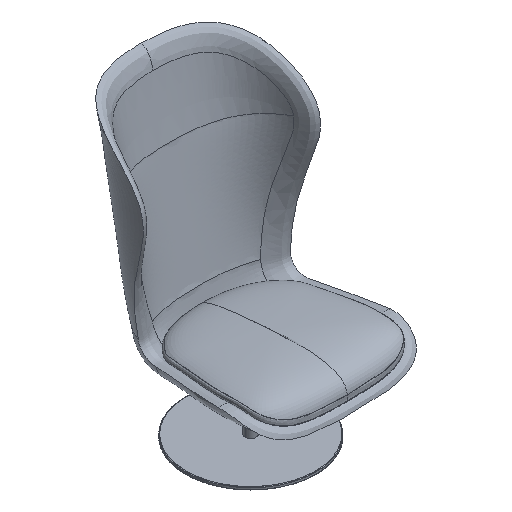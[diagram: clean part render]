
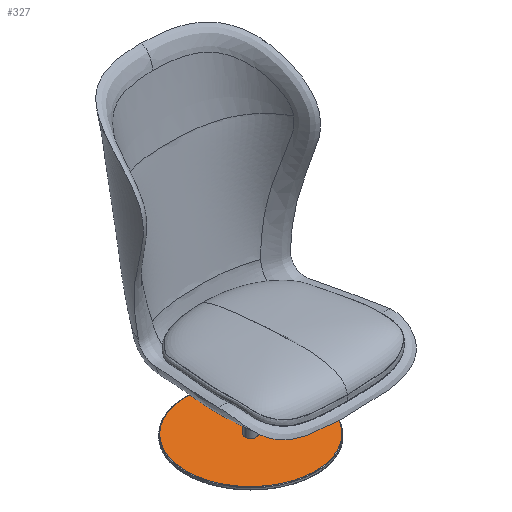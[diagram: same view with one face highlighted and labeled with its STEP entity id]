
A CAD part, isometric view. The second image highlights one B-rep face of the part: STEP entity #327.
In plain terms, the highlighted planar face has unit normal (0, 0, 1).
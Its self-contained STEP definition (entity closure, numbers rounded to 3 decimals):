
#24=FACE_BOUND('',#455,.T.);
#135=(
BOUNDED_CURVE()
B_SPLINE_CURVE(3,(#33781,#33782,#33783,#33784,#33785,#33786,#33787,#33788,
#33789,#33790,#33791,#33792,#33793,#33794,#33795,#33796,#33797,#33798,#33799,
#33800,#33801,#33802,#33803,#33804,#33805,#33806,#33807,#33808,#33809,#33810,
#33811,#33812,#33813,#33814,#33815,#33816,#33817,#33818,#33819,#33820,#33821,
#33822,#33823,#33824,#33825,#33826,#33827,#33828,#33829,#33830,#33831,#33832,
#33833,#33834,#33835,#33836,#33837,#33838,#33839,#33840,#33841,#33842,#33843,
#33844,#33845,#33846,#33847,#33848,#33849,#33850),.UNSPECIFIED.,.T.,.F.)
B_SPLINE_CURVE_WITH_KNOTS((4,1,1,1,1,1,1,1,1,1,1,1,1,1,1,1,1,1,1,1,1,1,
1,1,1,1,1,1,1,1,1,1,1,1,1,1,1,1,1,1,1,1,1,1,1,1,1,1,1,1,1,1,1,1,1,1,1,1,
1,1,1,1,1,1,1,1,1,4),(0.,34.953,69.907,110.566,
131.482,152.399,173.621,194.844,216.066,
237.289,279.121,289.286,299.451,309.616,
319.781,337.257,354.734,389.687,407.164,
424.641,442.117,459.594,479.924,500.254,
542.086,563.309,584.531,605.754,626.976,
647.892,668.809,678.973,689.138,709.468,
744.421,779.375,814.328,849.281,869.611,
889.941,931.774,952.996,974.218,995.441,
1016.663,1037.58,1058.496,1068.661,1078.826,
1099.155,1134.109,1169.062,1204.016,1238.969,
1259.299,1279.628,1321.461,1342.683,1363.906,
1385.128,1406.351,1448.183,1468.513,1488.843,
1506.319,1523.796,1541.273,1558.75),
 .UNSPECIFIED.)
CURVE()
GEOMETRIC_REPRESENTATION_ITEM()
RATIONAL_B_SPLINE_CURVE((1.,1.,1.,1.,1.,1.,1.,1.,
1.,1.,1.,1.,1.,1.,1.,1.,1.,1.,1.,1.,1.,
1.,1.,1.,1.,1.,1.,1.,1.,1.,1.,1.,1.,
1.,1.,1.,1.,1.,1.,1.,1.,1.,
1.,1.,1.,1.,1.,1.,1.,1.,1.,
1.,1.,1.,1.,1.,1.,1.,1.,1.,1.,1.,1.,1.,
1.,1.,1.,1.,1.,1.))
REPRESENTATION_ITEM('')
);
#136=(
BOUNDED_CURVE()
B_SPLINE_CURVE(2,(#33851,#33852,#33853,#33854,#33855,#33856,#33857,#33858,
#33859),.UNSPECIFIED.,.T.,.F.)
B_SPLINE_CURVE_WITH_KNOTS((3,2,2,2,3),(0.,42.7,85.4,128.1,170.8),
 .UNSPECIFIED.)
CURVE()
GEOMETRIC_REPRESENTATION_ITEM()
RATIONAL_B_SPLINE_CURVE((1.,0.707,1.,0.707,1.,0.707,
1.,0.707,1.))
REPRESENTATION_ITEM('')
);
#180=PLANE('',#1340);
#327=ADVANCED_FACE('',(#386,#24),#180,.T.);
#386=FACE_OUTER_BOUND('',#454,.T.);
#454=EDGE_LOOP('',(#653));
#455=EDGE_LOOP('',(#654));
#653=ORIENTED_EDGE('',*,*,#929,.T.);
#654=ORIENTED_EDGE('',*,*,#930,.T.);
#929=EDGE_CURVE('',#1251,#1251,#135,.T.);
#930=EDGE_CURVE('',#1252,#1252,#136,.T.);
#1251=VERTEX_POINT('',#33779);
#1252=VERTEX_POINT('',#33780);
#1340=AXIS2_PLACEMENT_3D('',#33778,#1357,$);
#1357=DIRECTION('',(0.,0.,1.));
#33778=CARTESIAN_POINT('',(-298.188,95.274,10.));
#33779=CARTESIAN_POINT('',(247.727,393.503,10.));
#33780=CARTESIAN_POINT('',(21.35,393.503,10.));
#33781=CARTESIAN_POINT('',(247.727,393.503,10.));
#33782=CARTESIAN_POINT('',(247.728,405.138,10.));
#33783=CARTESIAN_POINT('',(246.085,428.406,10.));
#33784=CARTESIAN_POINT('',(238.346,464.48,10.));
#33785=CARTESIAN_POINT('',(226.878,494.609,10.));
#33786=CARTESIAN_POINT('',(213.994,518.885,10.));
#33787=CARTESIAN_POINT('',(202.621,536.546,10.));
#33788=CARTESIAN_POINT('',(189.727,553.26,10.));
#33789=CARTESIAN_POINT('',(175.384,568.887,10.));
#33790=CARTESIAN_POINT('',(159.757,583.23,10.));
#33791=CARTESIAN_POINT('',(137.526,600.381,10.));
#33792=CARTESIAN_POINT('',(116.424,612.746,10.));
#33793=CARTESIAN_POINT('',(97.57,621.281,10.));
#33794=CARTESIAN_POINT('',(88.158,625.088,10.));
#33795=CARTESIAN_POINT('',(78.598,628.504,10.));
#33796=CARTESIAN_POINT('',(66.582,632.251,10.));
#33797=CARTESIAN_POINT('',(52.009,635.919,10.));
#33798=CARTESIAN_POINT('',(29.086,639.999,10.));
#33799=CARTESIAN_POINT('',(5.817,641.641,10.));
#33800=CARTESIAN_POINT('',(-17.452,640.82,10.));
#33801=CARTESIAN_POINT('',(-34.817,638.979,10.));
#33802=CARTESIAN_POINT('',(-52.009,635.919,10.));
#33803=CARTESIAN_POINT('',(-69.865,631.425,10.));
#33804=CARTESIAN_POINT('',(-88.232,625.282,10.));
#33805=CARTESIAN_POINT('',(-113.493,614.461,10.));
#33806=CARTESIAN_POINT('',(-137.526,600.382,10.));
#33807=CARTESIAN_POINT('',(-159.757,583.23,10.));
#33808=CARTESIAN_POINT('',(-175.384,568.887,10.));
#33809=CARTESIAN_POINT('',(-189.727,553.26,10.));
#33810=CARTESIAN_POINT('',(-202.621,536.546,10.));
#33811=CARTESIAN_POINT('',(-213.995,518.885,10.));
#33812=CARTESIAN_POINT('',(-222.114,503.583,10.));
#33813=CARTESIAN_POINT('',(-227.779,491.073,10.));
#33814=CARTESIAN_POINT('',(-232.853,478.524,10.));
#33815=CARTESIAN_POINT('',(-239.769,457.847,10.));
#33816=CARTESIAN_POINT('',(-246.086,428.407,10.));
#33817=CARTESIAN_POINT('',(-248.548,393.503,10.));
#33818=CARTESIAN_POINT('',(-246.086,358.6,10.));
#33819=CARTESIAN_POINT('',(-239.769,329.159,10.));
#33820=CARTESIAN_POINT('',(-231.779,305.271,10.));
#33821=CARTESIAN_POINT('',(-220.959,280.01,10.));
#33822=CARTESIAN_POINT('',(-206.878,255.977,10.));
#33823=CARTESIAN_POINT('',(-189.727,233.746,10.));
#33824=CARTESIAN_POINT('',(-175.384,218.119,10.));
#33825=CARTESIAN_POINT('',(-159.757,203.776,10.));
#33826=CARTESIAN_POINT('',(-143.043,190.882,10.));
#33827=CARTESIAN_POINT('',(-125.382,179.508,10.));
#33828=CARTESIAN_POINT('',(-110.079,171.389,10.));
#33829=CARTESIAN_POINT('',(-97.57,165.724,10.));
#33830=CARTESIAN_POINT('',(-85.021,160.65,10.));
#33831=CARTESIAN_POINT('',(-64.343,153.734,10.));
#33832=CARTESIAN_POINT('',(-34.904,147.417,10.));
#33833=CARTESIAN_POINT('',(0.001,144.955,10.));
#33834=CARTESIAN_POINT('',(34.903,147.417,10.));
#33835=CARTESIAN_POINT('',(64.344,153.734,10.));
#33836=CARTESIAN_POINT('',(88.232,161.724,10.));
#33837=CARTESIAN_POINT('',(113.494,172.544,10.));
#33838=CARTESIAN_POINT('',(137.526,186.625,10.));
#33839=CARTESIAN_POINT('',(159.757,203.777,10.));
#33840=CARTESIAN_POINT('',(175.384,218.119,10.));
#33841=CARTESIAN_POINT('',(189.727,233.746,10.));
#33842=CARTESIAN_POINT('',(206.878,255.977,10.));
#33843=CARTESIAN_POINT('',(220.959,280.009,10.));
#33844=CARTESIAN_POINT('',(231.778,305.271,10.));
#33845=CARTESIAN_POINT('',(237.922,323.638,10.));
#33846=CARTESIAN_POINT('',(242.416,341.494,10.));
#33847=CARTESIAN_POINT('',(245.476,358.686,10.));
#33848=CARTESIAN_POINT('',(247.317,376.052,10.));
#33849=CARTESIAN_POINT('',(247.727,387.686,10.));
#33850=CARTESIAN_POINT('',(247.727,393.503,10.));
#33851=CARTESIAN_POINT('',(21.35,393.503,10.));
#33852=CARTESIAN_POINT('',(21.35,372.153,10.));
#33853=CARTESIAN_POINT('',(0.,372.153,10.));
#33854=CARTESIAN_POINT('',(-21.35,372.153,10.));
#33855=CARTESIAN_POINT('',(-21.35,393.503,10.));
#33856=CARTESIAN_POINT('',(-21.35,414.853,10.));
#33857=CARTESIAN_POINT('',(0.,414.853,10.));
#33858=CARTESIAN_POINT('',(21.35,414.853,10.));
#33859=CARTESIAN_POINT('',(21.35,393.503,10.));
